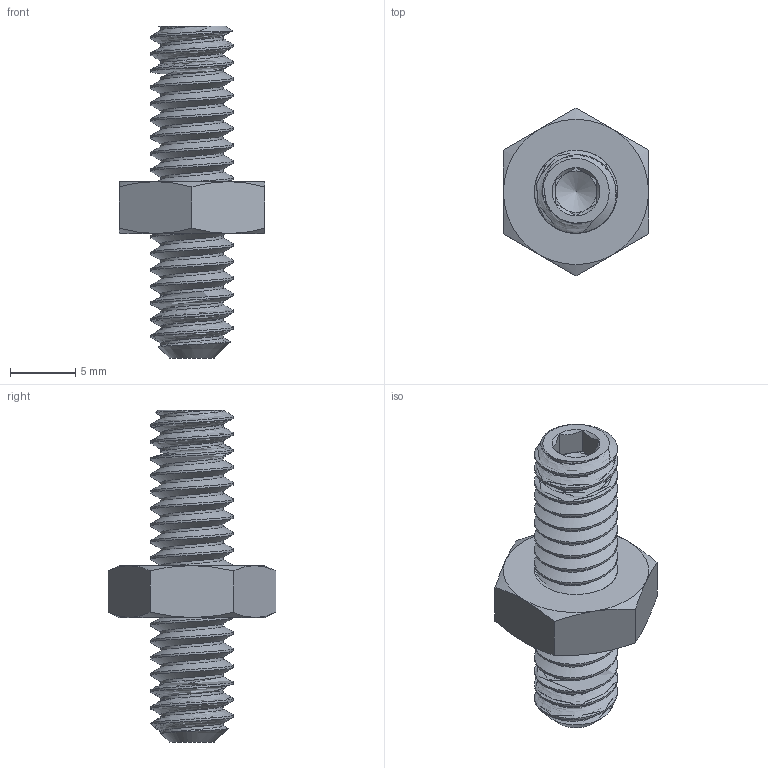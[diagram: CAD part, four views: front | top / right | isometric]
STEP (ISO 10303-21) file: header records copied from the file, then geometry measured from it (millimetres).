
FILE_DESCRIPTION(/* description */ (''),/* implementation_level */ '2;1');
FILE_NAME(/* name */ 'C:\Users\Doug Biddinger\Desktop\PL-FK14-20\PL-FK14-20.stp',/* time_stamp */ '2019-02-28T14:00:20-05:00',/* author */ ('Doug Biddinger'),/* organization */ (''),/* preprocessor_version */ 'ST-DEVELOPER v17',/* originating_system */ 'Autodesk Inventor 2019',/* authorisation */ '');
FILE_SCHEMA (('CONFIG_CONTROL_DESIGN'));
Length unit declared in the file: inch
Products named in the file (3): PL-FK14-20; .25-20 X 1.00IN GL SHSS; 60026
Assembly tree (2 placements, depth 2):
  PL-FK14-20
    .25-20 X 1.00IN GL SHSS
    60026
Bounding box: 11.11 x 12.83 x 25.4 mm (x, y, z)
Volume: 899.1 mm3; surface area: 1200.8 mm2
Topology: 2 solids, 2 shells, 87 faces, 216 edges, 132 vertices
Faces by surface type: cone 35, cylinder 28, plane 21, bspline 3
Full cylindrical faces by diameter (mm): 5.387 x2, 6.35 x20
Entity records: 6821 total; most frequent: CARTESIAN_POINT 4877, ORIENTED_EDGE 428, DIRECTION 337, EDGE_CURVE 214, AXIS2_PLACEMENT_3D 141, VERTEX_POINT 132, EDGE_LOOP 90, FACE_OUTER_BOUND 87
